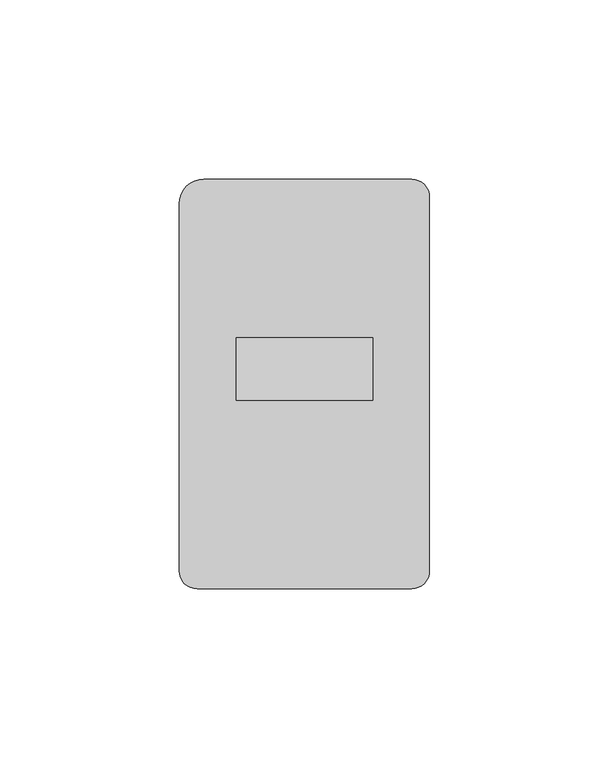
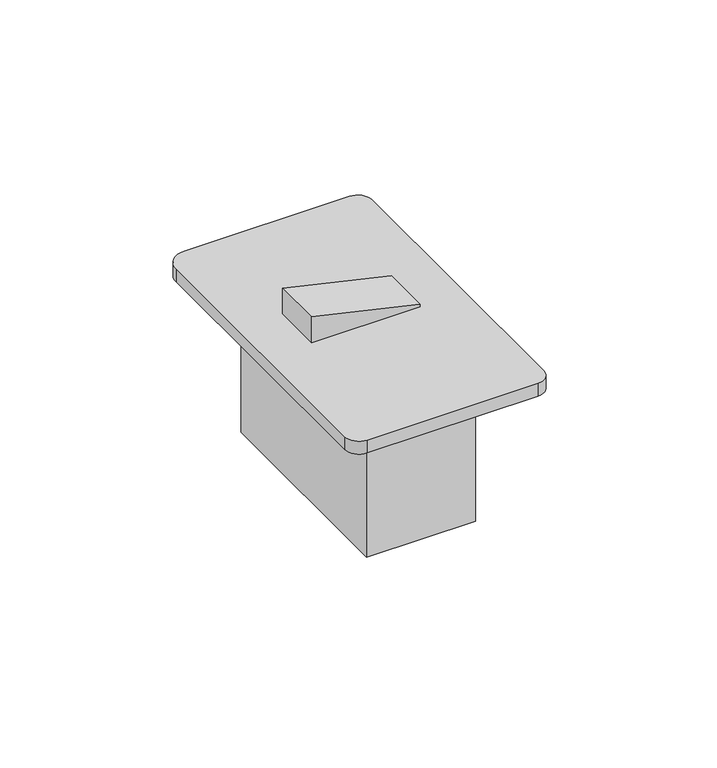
"""IFC4 building model written with IfcOpenShell, lengths in millimetres: switching device geometry, Interruptor : Tridireccional."""

from ifc_helpers import new_model, si_unit, point, frame, frame_2d, origin, origin_with_axes, place, context, project, spatial, polyline, circle_curve, trimmed, segment, composite_curve, outline, extrude, source, transform, mapped, element, save


def switching_device_22fed34b(model_context):
    return source(origin(), model_context, "Body", "SweptSolid", [
        extrude(outline(polyline([(19.05, 38.1), (19.05, -38.1), (-19.05, -38.1), (-19.05, 38.1), (19.05, 38.1)])), frame((0.0, 0.0, -53.975), z_axis=(0.0, 0.0, 1.0), x_axis=(1.0, 0.0, 0.0)), (0.0, 0.0, 1.0), 53.975),
        extrude(outline(composite_curve([segment(trimmed(circle_curve(frame_2d((29.925, 52.15)), 5.0), [point((29.925, 57.15))], [point((34.925, 52.15))], False, "CARTESIAN"), True, "CONTINUOUS"), segment(polyline([(34.925, 52.15), (34.925, -52.15)]), True, "CONTINUOUS"), segment(trimmed(circle_curve(frame_2d((29.925, -52.15)), 5.0), [point((34.925, -52.15))], [point((29.925, -57.15))], False, "CARTESIAN"), True, "CONTINUOUS"), segment(polyline([(29.925, -57.15), (-29.925, -57.15)]), True, "CONTINUOUS"), segment(trimmed(circle_curve(frame_2d((-29.925, -52.15)), 5.0), [point((-29.925, -57.15))], [point((-34.925, -52.15))], False, "CARTESIAN"), True, "CONTINUOUS"), segment(polyline([(-34.925, -52.15), (-34.925, 50.2340991)]), True, "CONTINUOUS"), segment(trimmed(circle_curve(frame_2d((-28.0090991, 50.2340991)), 6.9159009), [point((-34.925, 50.2340991))], [point((-28.0090991, 57.15))], False, "CARTESIAN"), True, "CONTINUOUS"), segment(polyline([(-28.0090991, 57.15), (29.925, 57.15)]), True, "CONTINUOUS")], self_intersect=False)), origin_with_axes(), (0.0, 0.0, 1.0), 4.7625),
        extrude(outline(polyline([(4.7625, -19.05), (4.7625, 19.05), (5.9444915, 19.05), (14.7405696, -19.05), (4.7625, -19.05)])), frame((0.0, -4.5298815, 0.0), z_axis=(0.0, 1.0, 0.0), x_axis=(0.0, 0.0, 1.0)), (0.0, 0.0, 1.0), 17.4226211),
        extrude(outline(composite_curve([segment(trimmed(circle_curve(frame_2d((-43.1388757, -0.0498456)), 10.5), [point((-43.1388757, -10.5498456))], [point((-43.1388757, 10.4501544))], False, "CARTESIAN"), True, "CONTINUOUS"), segment(trimmed(circle_curve(frame_2d((-43.1388757, -0.0498456)), 10.5), [point((-43.1388757, 10.4501544))], [point((-43.1388757, -10.5498456))], False, "CARTESIAN"), True, "CONTINUOUS")], self_intersect=False)), frame((0.0, 38.1, 0.0), z_axis=(0.0, 1.0, 0.0), x_axis=(0.0, 0.0, 1.0)), (0.0, 0.0, 1.0), 2.1227463),
    ])


if __name__ == "__main__":
    model = new_model("IFC4")
    model_context = context("Model", 3, world=origin())
    ifc_project = project(units=[si_unit("LENGTHUNIT", "METRE", prefix="MILLI")], contexts=[model_context])
    site = spatial("IfcSite", under=ifc_project)
    building = spatial("IfcBuilding", under=site)
    placement = place(None, origin())
    switching_device_shape = switching_device_22fed34b(model_context)
    element("IfcSwitchingDevice", 1, ObjectType="Interruptor : Tridireccional", at=placement, inside=building, context=model_context, shape_type="MappedRepresentation", body=[
        mapped(switching_device_shape, transform((0.0, 0.0, 0.0), x_axis=(1.0, 0.0, 0.0), y_axis=(0.0, 1.0, 0.0), z_axis=(0.0, 0.0, 1.0))),
    ])
    save(model, "model.ifc")
